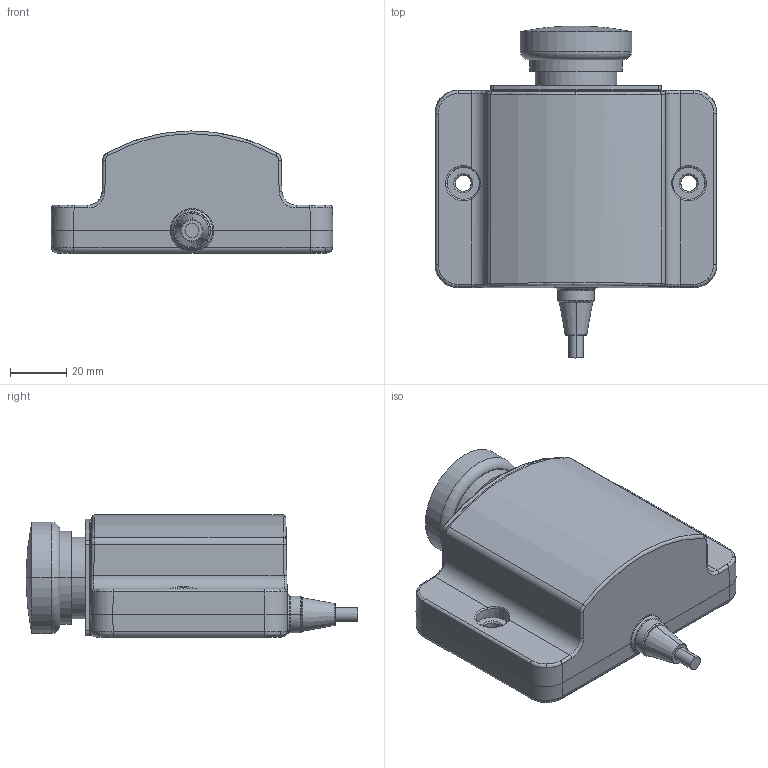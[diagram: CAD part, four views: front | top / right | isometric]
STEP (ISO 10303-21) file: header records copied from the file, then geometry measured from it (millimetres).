
FILE_DESCRIPTION (( 'STEP AP203' ), '1' );
FILE_NAME ('TEB.STEP', '2014-01-16T02:54:49', ( 'stanley' ), ( '' ), 'SwSTEP 2.0', 'SolidWorks 2010', '' );
FILE_SCHEMA (( 'CONFIG_CONTROL_DESIGN' ));
Length unit declared in the file: millimetre
Products named in the file (1): TEB
Bounding box: 100 x 117.8 x 43.34 mm (x, y, z)
Volume: 245188.4 mm3; surface area: 50267.1 mm2
Topology: 5 solids, 5 shells, 258 faces, 584 edges, 354 vertices
Faces by surface type: cylinder 72, plane 49, cone 48, torus 46, bspline 41, sphere 2
Entity records: 12145 total; most frequent: CARTESIAN_POINT 6439, DIRECTION 1202, ORIENTED_EDGE 1168, EDGE_CURVE 584, AXIS2_PLACEMENT_3D 512, VERTEX_POINT 354, CIRCLE 294, EDGE_LOOP 292
